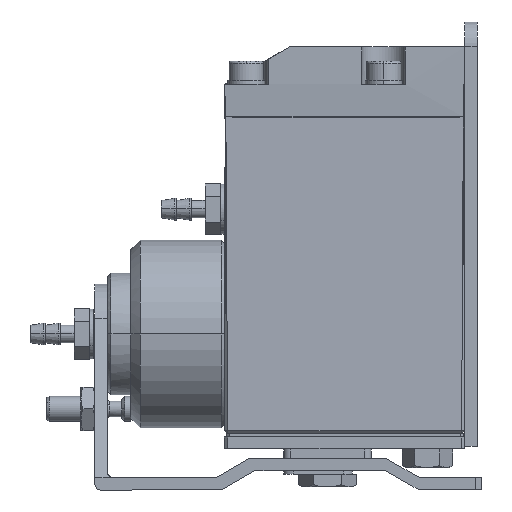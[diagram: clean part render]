
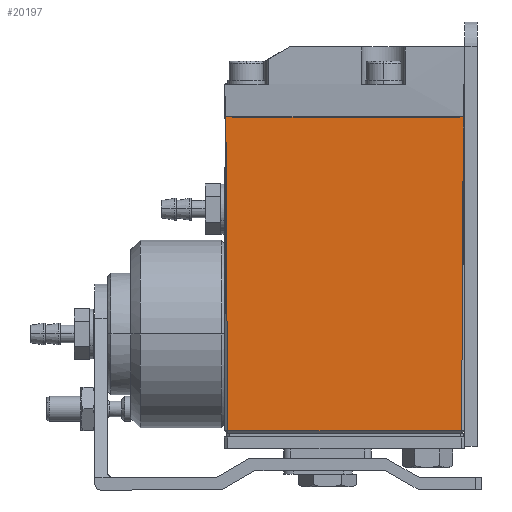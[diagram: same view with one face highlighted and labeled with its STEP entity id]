
A CAD part, left-side view. The second image highlights one B-rep face of the part: STEP entity #20197.
In plain terms, the highlighted planar face has unit normal (-1, 0, 0).
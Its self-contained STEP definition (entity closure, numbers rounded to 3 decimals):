
#926 = PLANE ( 'NONE',  #4538 ) ;
#2779 = CARTESIAN_POINT ( 'NONE',  ( 0., 38., 0.5 ) ) ;
#4538 = AXIS2_PLACEMENT_3D ( 'NONE', #18407, #48554, #22784 ) ;
#6504 = VERTEX_POINT ( 'NONE', #2779 ) ;
#9306 = LINE ( 'NONE', #48134, #31077 ) ;
#10154 = ORIENTED_EDGE ( 'NONE', *, *, #26461, .F. ) ;
#13289 = ORIENTED_EDGE ( 'NONE', *, *, #46165, .T. ) ;
#13662 = LINE ( 'NONE', #38052, #35361 ) ;
#14496 = ORIENTED_EDGE ( 'NONE', *, *, #31795, .T. ) ;
#14660 = VERTEX_POINT ( 'NONE', #45926 ) ;
#18407 = CARTESIAN_POINT ( 'NONE',  ( 0., -3.25, -4.5 ) ) ;
#20197 = ADVANCED_FACE ( 'NONE', ( #52087 ), #926, .T. ) ;
#22784 = DIRECTION ( 'NONE',  ( 0., 0., 1. ) ) ;
#24972 = CARTESIAN_POINT ( 'NONE',  ( 0., 0.5, 25.5 ) ) ;
#25537 = LINE ( 'NONE', #24972, #36991 ) ;
#25595 = DIRECTION ( 'NONE',  ( 0., 1., 0. ) ) ;
#26461 = EDGE_CURVE ( 'NONE', #14660, #6504, #13662, .T. ) ;
#26837 = VECTOR ( 'NONE', #34253, 1000. ) ;
#29899 = CARTESIAN_POINT ( 'NONE',  ( 0., 38., 25.5 ) ) ;
#30583 = VERTEX_POINT ( 'NONE', #41582 ) ;
#31077 = VECTOR ( 'NONE', #52402, 1000. ) ;
#31795 = EDGE_CURVE ( 'NONE', #30583, #41972, #9306, .T. ) ;
#33663 = DIRECTION ( 'NONE',  ( 0., 0., 1. ) ) ;
#34253 = DIRECTION ( 'NONE',  ( 0., 0., -1. ) ) ;
#35361 = VECTOR ( 'NONE', #25595, 1000. ) ;
#36991 = VECTOR ( 'NONE', #33663, 1000. ) ;
#38052 = CARTESIAN_POINT ( 'NONE',  ( 0., 19.25, 0.5 ) ) ;
#39858 = EDGE_CURVE ( 'NONE', #41972, #6504, #49666, .T. ) ;
#40230 = CARTESIAN_POINT ( 'NONE',  ( 0.185, 38.28, 50.78 ) ) ;
#41582 = CARTESIAN_POINT ( 'NONE',  ( 0.185, 0.22, 50.78 ) ) ;
#41972 = VERTEX_POINT ( 'NONE', #40230 ) ;
#45926 = CARTESIAN_POINT ( 'NONE',  ( 0., 0.5, 0.5 ) ) ;
#46165 = EDGE_CURVE ( 'NONE', #14660, #30583, #25537, .T. ) ;
#48134 = CARTESIAN_POINT ( 'NONE',  ( 0., 19.25, 50.5 ) ) ;
#48468 = EDGE_LOOP ( 'NONE', ( #13289, #14496, #51179, #10154 ) ) ;
#48554 = DIRECTION ( 'NONE',  ( -1., 0., 0. ) ) ;
#49666 = LINE ( 'NONE', #29899, #26837 ) ;
#51179 = ORIENTED_EDGE ( 'NONE', *, *, #39858, .T. ) ;
#52087 = FACE_OUTER_BOUND ( 'NONE', #48468, .T. ) ;
#52402 = DIRECTION ( 'NONE',  ( 0., 1., 0. ) ) ;
